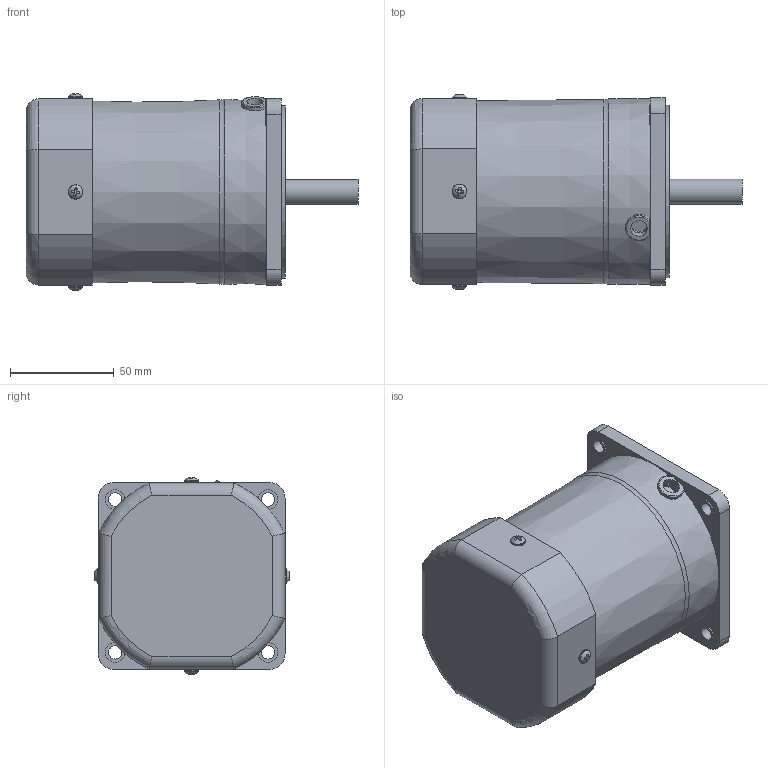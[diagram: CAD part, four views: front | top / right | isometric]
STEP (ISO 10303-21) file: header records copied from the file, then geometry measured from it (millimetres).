
FILE_DESCRIPTION((''),'2;1');
FILE_NAME('D:\STP파일\60W MOTOR\S9I60S.stp','2013-05-20T18:02:57',('leebh'),(''),'Autodesk Inventor 2011','Autodesk Inventor 2011','');
FILE_SCHEMA(('AUTOMOTIVE_DESIGN { 1 0 10303 214 1 1 1 1 }'));
Length unit declared in the file: millimetre
Products named in the file (1): 부품1
Bounding box: 159.8 x 94.11 x 94.77 mm (x, y, z)
Volume: 793116.5 mm3; surface area: 57872.8 mm2
Topology: 1 solids, 3 shells, 165 faces, 411 edges, 268 vertices
Faces by surface type: plane 101, cylinder 43, torus 13, cone 4, bspline 4
Full cylindrical faces by diameter (mm): 4 x2, 6.5 x4, 7 x4, 8 x1, 9.5 x4, 10 x1, 12 x1, 40 x1, 83 x1
Entity records: 5154 total; most frequent: CARTESIAN_POINT 1368, DIRECTION 724, ORIENTED_EDGE 724, EDGE_CURVE 362, AXIS2_PLACEMENT_3D 261, VERTEX_POINT 255, EDGE_LOOP 229, VECTOR 202
